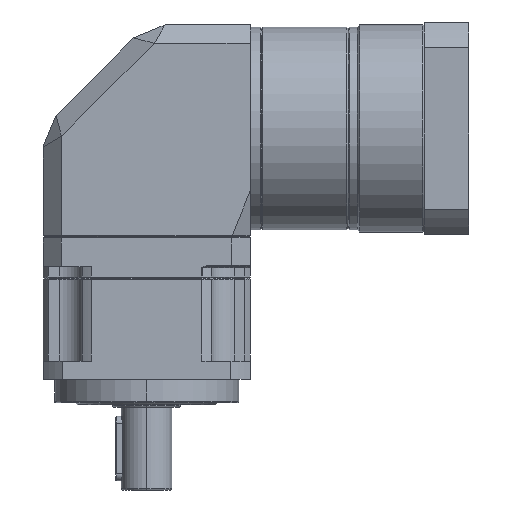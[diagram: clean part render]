
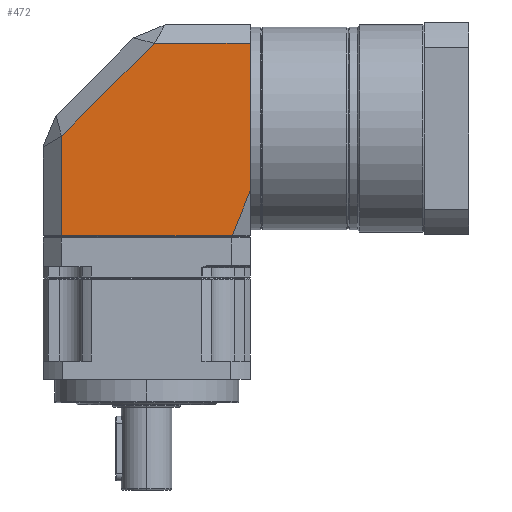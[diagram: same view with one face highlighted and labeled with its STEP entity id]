
A CAD part, left-side view. The second image highlights one B-rep face of the part: STEP entity #472.
In plain terms, the highlighted planar face has unit normal (-1, 0, 0).
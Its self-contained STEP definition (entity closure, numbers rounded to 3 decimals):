
#148=PLANE('',#5033);
#472=ADVANCED_FACE('',(#833),#148,.F.);
#833=FACE_OUTER_BOUND('',#1131,.T.);
#1131=EDGE_LOOP('',(#1971,#1972,#1973,#1974,#1975,#1976));
#1971=ORIENTED_EDGE('',*,*,#3622,.T.);
#1972=ORIENTED_EDGE('',*,*,#3579,.T.);
#1973=ORIENTED_EDGE('',*,*,#3592,.F.);
#1974=ORIENTED_EDGE('',*,*,#3626,.F.);
#1975=ORIENTED_EDGE('',*,*,#3608,.T.);
#1976=ORIENTED_EDGE('',*,*,#3604,.T.);
#3123=VERTEX_POINT('',#7379);
#3125=VERTEX_POINT('',#7383);
#3132=VERTEX_POINT('',#7408);
#3138=VERTEX_POINT('',#7425);
#3141=VERTEX_POINT('',#7434);
#3143=VERTEX_POINT('',#7440);
#3579=EDGE_CURVE('',#3123,#3125,#4192,.T.);
#3592=EDGE_CURVE('',#3132,#3125,#4204,.T.);
#3604=EDGE_CURVE('',#3138,#3141,#4216,.T.);
#3608=EDGE_CURVE('',#3143,#3138,#4220,.T.);
#3622=EDGE_CURVE('',#3141,#3123,#4234,.T.);
#3626=EDGE_CURVE('',#3143,#3132,#4238,.T.);
#4192=LINE('',#7384,#4602);
#4204=LINE('',#7409,#4614);
#4216=LINE('',#7435,#4626);
#4220=LINE('',#7442,#4630);
#4234=LINE('',#7468,#4644);
#4238=LINE('',#7477,#4648);
#4602=VECTOR('',#5802,1.);
#4614=VECTOR('',#5826,1.);
#4626=VECTOR('',#5848,1.);
#4630=VECTOR('',#5854,1.);
#4644=VECTOR('',#5880,1.);
#4648=VECTOR('',#5894,1.);
#5033=AXIS2_PLACEMENT_3D('',#7478,#5895,#5896);
#5802=DIRECTION('',(0.,-1.,0.));
#5826=DIRECTION('',(0.,0.371,-0.928));
#5848=DIRECTION('',(0.,0.707,-0.707));
#5854=DIRECTION('',(0.,1.,0.));
#5880=DIRECTION('',(0.,0.,-1.));
#5894=DIRECTION('',(0.,0.,-1.));
#5895=DIRECTION('',(1.,0.,0.));
#5896=DIRECTION('',(0.,0.,-1.));
#7379=CARTESIAN_POINT('',(-45.,37.,62.5));
#7383=CARTESIAN_POINT('',(-45.,-37.2,62.5));
#7384=CARTESIAN_POINT('',(-45.,-45.,62.5));
#7408=CARTESIAN_POINT('',(-45.,-45.,82.));
#7409=CARTESIAN_POINT('',(-45.,-69.828,144.069));
#7425=CARTESIAN_POINT('',(-45.,-3.314,146.));
#7434=CARTESIAN_POINT('',(-45.,37.,105.686));
#7435=CARTESIAN_POINT('',(-45.,39.343,103.343));
#7440=CARTESIAN_POINT('',(-45.,-45.,146.));
#7442=CARTESIAN_POINT('',(-45.,0.,146.));
#7468=CARTESIAN_POINT('',(-45.,37.,154.));
#7477=CARTESIAN_POINT('',(-45.,-45.,154.));
#7478=CARTESIAN_POINT('',(-45.,-45.,154.));
